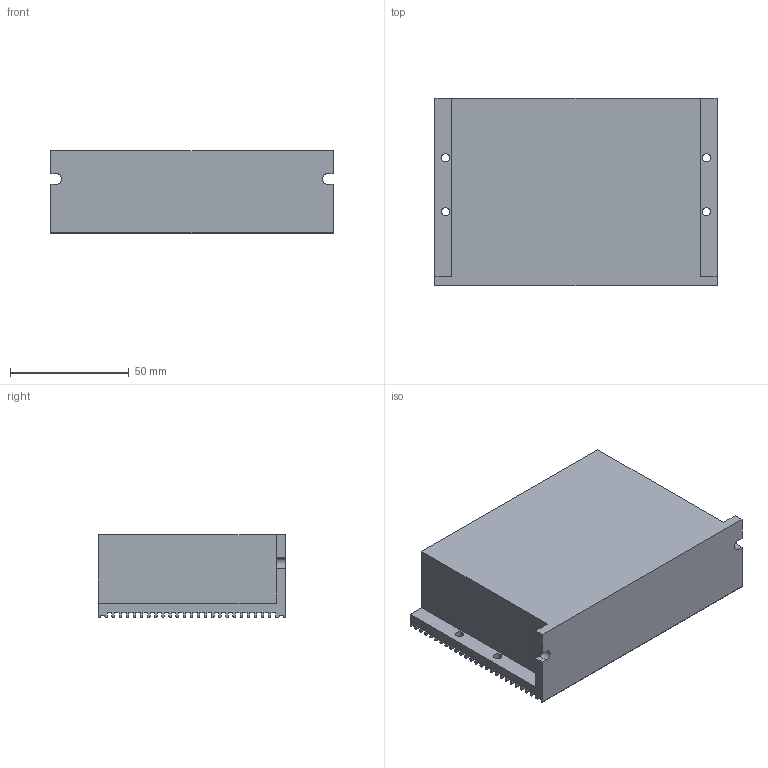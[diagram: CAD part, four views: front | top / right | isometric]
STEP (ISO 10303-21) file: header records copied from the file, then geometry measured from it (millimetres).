
FILE_DESCRIPTION (( 'STEP AP214' ), '1' );
FILE_NAME ('R86MINI.STEP', '2021-03-29T11:06:23', ( '' ), ( '' ), 'SwSTEP 2.0', 'SolidWorks 2014', '' );
FILE_SCHEMA (( 'AUTOMOTIVE_DESIGN' ));
Length unit declared in the file: millimetre
Products named in the file (1): R86MINI
Bounding box: 119 x 79 x 35 mm (x, y, z)
Volume: 286371.6 mm3; surface area: 43080.9 mm2
Topology: 1 solids, 1 shells, 212 faces, 640 edges, 426 vertices
Faces by surface type: plane 138, cylinder 73, torus 1
Entity records: 7307 total; most frequent: CARTESIAN_POINT 1410, ORIENTED_EDGE 1280, DIRECTION 1187, EDGE_CURVE 640, VECTOR 473, LINE 473, VERTEX_POINT 426, AXIS2_PLACEMENT_3D 357
